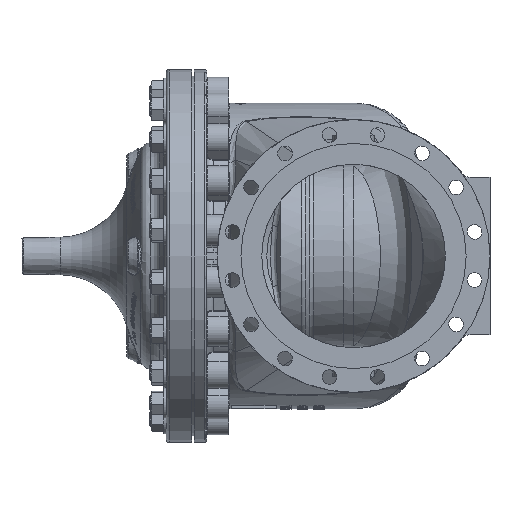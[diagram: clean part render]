
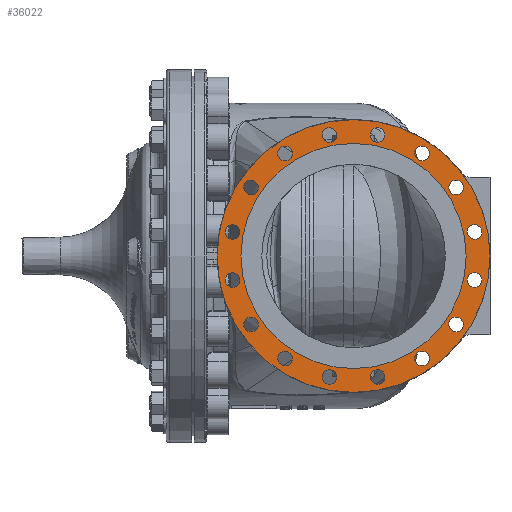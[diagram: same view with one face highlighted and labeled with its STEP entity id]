
A CAD part, left-side view. The second image highlights one B-rep face of the part: STEP entity #36022.
In plain terms, the highlighted planar face has unit normal (-1, 0, 0).
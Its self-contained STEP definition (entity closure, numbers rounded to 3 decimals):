
#6027=FACE_BOUND('',#10042,.T.);
#6028=FACE_BOUND('',#10043,.T.);
#6029=FACE_BOUND('',#10044,.T.);
#6030=FACE_BOUND('',#10045,.T.);
#6031=FACE_BOUND('',#10046,.T.);
#6032=FACE_BOUND('',#10047,.T.);
#6033=FACE_BOUND('',#10048,.T.);
#6034=FACE_BOUND('',#10049,.T.);
#6035=FACE_BOUND('',#10050,.T.);
#6036=FACE_BOUND('',#10051,.T.);
#6037=FACE_BOUND('',#10052,.T.);
#6038=FACE_BOUND('',#10053,.T.);
#6039=FACE_BOUND('',#10054,.T.);
#6040=FACE_BOUND('',#10055,.T.);
#6041=FACE_BOUND('',#10056,.T.);
#6042=FACE_BOUND('',#10057,.T.);
#6043=FACE_BOUND('',#10058,.T.);
#7684=FACE_OUTER_BOUND('',#10041,.T.);
#10041=EDGE_LOOP('',(#30223));
#10042=EDGE_LOOP('',(#30224));
#10043=EDGE_LOOP('',(#30225));
#10044=EDGE_LOOP('',(#30226));
#10045=EDGE_LOOP('',(#30227));
#10046=EDGE_LOOP('',(#30228));
#10047=EDGE_LOOP('',(#30229));
#10048=EDGE_LOOP('',(#30230));
#10049=EDGE_LOOP('',(#30231));
#10050=EDGE_LOOP('',(#30232));
#10051=EDGE_LOOP('',(#30233));
#10052=EDGE_LOOP('',(#30234));
#10053=EDGE_LOOP('',(#30235));
#10054=EDGE_LOOP('',(#30236));
#10055=EDGE_LOOP('',(#30237));
#10056=EDGE_LOOP('',(#30238));
#10057=EDGE_LOOP('',(#30239));
#10058=EDGE_LOOP('',(#30240));
#11754=CIRCLE('',#38476,14.);
#11756=CIRCLE('',#38479,14.);
#11758=CIRCLE('',#38482,14.);
#11760=CIRCLE('',#38485,14.);
#11762=CIRCLE('',#38488,14.);
#11764=CIRCLE('',#38491,14.);
#11766=CIRCLE('',#38494,14.);
#11768=CIRCLE('',#38497,14.);
#11770=CIRCLE('',#38500,14.);
#11772=CIRCLE('',#38503,14.);
#11774=CIRCLE('',#38506,14.);
#11776=CIRCLE('',#38509,14.);
#11778=CIRCLE('',#38512,14.);
#11780=CIRCLE('',#38515,14.);
#11782=CIRCLE('',#38518,14.);
#11784=CIRCLE('',#38521,14.);
#12433=CIRCLE('',#39767,260.);
#12435=CIRCLE('',#39776,214.5);
#14650=VERTEX_POINT('',#58645);
#14652=VERTEX_POINT('',#58651);
#14654=VERTEX_POINT('',#58657);
#14656=VERTEX_POINT('',#58663);
#14658=VERTEX_POINT('',#58669);
#14660=VERTEX_POINT('',#58675);
#14662=VERTEX_POINT('',#58681);
#14664=VERTEX_POINT('',#58687);
#14666=VERTEX_POINT('',#58693);
#14668=VERTEX_POINT('',#58699);
#14670=VERTEX_POINT('',#58705);
#14672=VERTEX_POINT('',#58711);
#14674=VERTEX_POINT('',#58717);
#14676=VERTEX_POINT('',#58723);
#14678=VERTEX_POINT('',#58729);
#14680=VERTEX_POINT('',#58735);
#15836=VERTEX_POINT('',#74208);
#15838=VERTEX_POINT('',#74222);
#18924=EDGE_CURVE('',#14650,#14650,#11754,.T.);
#18927=EDGE_CURVE('',#14652,#14652,#11756,.T.);
#18930=EDGE_CURVE('',#14654,#14654,#11758,.T.);
#18933=EDGE_CURVE('',#14656,#14656,#11760,.T.);
#18936=EDGE_CURVE('',#14658,#14658,#11762,.T.);
#18939=EDGE_CURVE('',#14660,#14660,#11764,.T.);
#18942=EDGE_CURVE('',#14662,#14662,#11766,.T.);
#18945=EDGE_CURVE('',#14664,#14664,#11768,.T.);
#18948=EDGE_CURVE('',#14666,#14666,#11770,.T.);
#18951=EDGE_CURVE('',#14668,#14668,#11772,.T.);
#18954=EDGE_CURVE('',#14670,#14670,#11774,.T.);
#18957=EDGE_CURVE('',#14672,#14672,#11776,.T.);
#18960=EDGE_CURVE('',#14674,#14674,#11778,.T.);
#18963=EDGE_CURVE('',#14676,#14676,#11780,.T.);
#18966=EDGE_CURVE('',#14678,#14678,#11782,.T.);
#18969=EDGE_CURVE('',#14680,#14680,#11784,.T.);
#20839=EDGE_CURVE('',#15836,#15836,#12433,.T.);
#20843=EDGE_CURVE('',#15838,#15838,#12435,.T.);
#30223=ORIENTED_EDGE('',*,*,#20839,.F.);
#30224=ORIENTED_EDGE('',*,*,#18924,.T.);
#30225=ORIENTED_EDGE('',*,*,#18927,.T.);
#30226=ORIENTED_EDGE('',*,*,#18930,.T.);
#30227=ORIENTED_EDGE('',*,*,#18933,.T.);
#30228=ORIENTED_EDGE('',*,*,#18936,.T.);
#30229=ORIENTED_EDGE('',*,*,#18939,.T.);
#30230=ORIENTED_EDGE('',*,*,#18942,.T.);
#30231=ORIENTED_EDGE('',*,*,#18945,.T.);
#30232=ORIENTED_EDGE('',*,*,#18948,.T.);
#30233=ORIENTED_EDGE('',*,*,#18951,.T.);
#30234=ORIENTED_EDGE('',*,*,#18954,.T.);
#30235=ORIENTED_EDGE('',*,*,#18957,.T.);
#30236=ORIENTED_EDGE('',*,*,#18960,.T.);
#30237=ORIENTED_EDGE('',*,*,#18963,.T.);
#30238=ORIENTED_EDGE('',*,*,#18966,.T.);
#30239=ORIENTED_EDGE('',*,*,#18969,.T.);
#30240=ORIENTED_EDGE('',*,*,#20843,.F.);
#34169=PLANE('',#39778);
#36022=ADVANCED_FACE('',(#7684,#6027,#6028,#6029,#6030,#6031,#6032,#6033,
#6034,#6035,#6036,#6037,#6038,#6039,#6040,#6041,#6042,#6043),#34169,.F.);
#38476=AXIS2_PLACEMENT_3D('',#58646,#44834,#44835);
#38479=AXIS2_PLACEMENT_3D('',#58652,#44841,#44842);
#38482=AXIS2_PLACEMENT_3D('',#58658,#44848,#44849);
#38485=AXIS2_PLACEMENT_3D('',#58664,#44855,#44856);
#38488=AXIS2_PLACEMENT_3D('',#58670,#44862,#44863);
#38491=AXIS2_PLACEMENT_3D('',#58676,#44869,#44870);
#38494=AXIS2_PLACEMENT_3D('',#58682,#44876,#44877);
#38497=AXIS2_PLACEMENT_3D('',#58688,#44883,#44884);
#38500=AXIS2_PLACEMENT_3D('',#58694,#44890,#44891);
#38503=AXIS2_PLACEMENT_3D('',#58700,#44897,#44898);
#38506=AXIS2_PLACEMENT_3D('',#58706,#44904,#44905);
#38509=AXIS2_PLACEMENT_3D('',#58712,#44911,#44912);
#38512=AXIS2_PLACEMENT_3D('',#58718,#44918,#44919);
#38515=AXIS2_PLACEMENT_3D('',#58724,#44925,#44926);
#38518=AXIS2_PLACEMENT_3D('',#58730,#44932,#44933);
#38521=AXIS2_PLACEMENT_3D('',#58736,#44939,#44940);
#39767=AXIS2_PLACEMENT_3D('',#74210,#48079,#48080);
#39776=AXIS2_PLACEMENT_3D('',#74223,#48099,#48100);
#39778=AXIS2_PLACEMENT_3D('',#74227,#48104,#48105);
#44834=DIRECTION('center_axis',(1.,0.,0.));
#44835=DIRECTION('ref_axis',(0.,-0.383,-0.924));
#44841=DIRECTION('center_axis',(1.,0.,0.));
#44842=DIRECTION('ref_axis',(0.,-0.707,-0.707));
#44848=DIRECTION('center_axis',(1.,0.,0.));
#44849=DIRECTION('ref_axis',(0.,-0.924,-0.383));
#44855=DIRECTION('center_axis',(1.,0.,0.));
#44856=DIRECTION('ref_axis',(0.,-1.,0.));
#44862=DIRECTION('center_axis',(1.,0.,0.));
#44863=DIRECTION('ref_axis',(0.,-0.924,0.383));
#44869=DIRECTION('center_axis',(1.,0.,0.));
#44870=DIRECTION('ref_axis',(0.,-0.707,0.707));
#44876=DIRECTION('center_axis',(1.,0.,0.));
#44877=DIRECTION('ref_axis',(0.,-0.383,0.924));
#44883=DIRECTION('center_axis',(1.,0.,0.));
#44884=DIRECTION('ref_axis',(0.,0.,
1.));
#44890=DIRECTION('center_axis',(1.,0.,0.));
#44891=DIRECTION('ref_axis',(0.,0.383,0.924));
#44897=DIRECTION('center_axis',(1.,0.,0.));
#44898=DIRECTION('ref_axis',(0.,0.707,0.707));
#44904=DIRECTION('center_axis',(1.,0.,0.));
#44905=DIRECTION('ref_axis',(0.,0.924,0.383));
#44911=DIRECTION('center_axis',(1.,0.,0.));
#44912=DIRECTION('ref_axis',(0.,1.,0.));
#44918=DIRECTION('center_axis',(1.,0.,0.));
#44919=DIRECTION('ref_axis',(0.,0.924,-0.383));
#44925=DIRECTION('center_axis',(1.,0.,0.));
#44926=DIRECTION('ref_axis',(0.,0.707,-0.707));
#44932=DIRECTION('center_axis',(1.,0.,0.));
#44933=DIRECTION('ref_axis',(0.,0.383,-0.924));
#44939=DIRECTION('center_axis',(1.,0.,0.));
#44940=DIRECTION('ref_axis',(0.,0.,
-1.));
#48079=DIRECTION('center_axis',(1.,0.,0.));
#48080=DIRECTION('ref_axis',(0.,0.,
-1.));
#48099=DIRECTION('center_axis',(-1.,0.,0.));
#48100=DIRECTION('ref_axis',(0.,0.,
-1.));
#48104=DIRECTION('center_axis',(1.,0.,0.));
#48105=DIRECTION('ref_axis',(0.,0.,
-1.));
#58645=CARTESIAN_POINT('',(-486.,-672.299,-217.55));
#58646=CARTESIAN_POINT('Origin',(-486.,-677.656,-230.485));
#58651=CARTESIAN_POINT('',(-486.,-752.47,-185.496));
#58652=CARTESIAN_POINT('Origin',(-486.,-762.369,-195.395));
#58657=CARTESIAN_POINT('',(-486.,-814.271,-125.201));
#58658=CARTESIAN_POINT('Origin',(-486.,-827.205,-130.559));
#58663=CARTESIAN_POINT('',(-486.,-848.295,-45.846));
#58664=CARTESIAN_POINT('Origin',(-486.,-862.295,-45.846));
#58669=CARTESIAN_POINT('',(-486.,-849.36,40.489));
#58670=CARTESIAN_POINT('Origin',(-486.,-862.295,45.846));
#58675=CARTESIAN_POINT('',(-486.,-817.306,120.66));
#58676=CARTESIAN_POINT('Origin',(-486.,-827.205,130.559));
#58681=CARTESIAN_POINT('',(-486.,-757.011,182.461));
#58682=CARTESIAN_POINT('Origin',(-486.,-762.369,195.395));
#58687=CARTESIAN_POINT('',(-486.,-677.656,216.485));
#58688=CARTESIAN_POINT('Origin',(-486.,-677.656,230.485));
#58693=CARTESIAN_POINT('',(-486.,-591.321,217.55));
#58694=CARTESIAN_POINT('Origin',(-486.,-585.964,230.485));
#58699=CARTESIAN_POINT('',(-486.,-511.15,185.496));
#58700=CARTESIAN_POINT('Origin',(-486.,-501.251,195.395));
#58705=CARTESIAN_POINT('',(-486.,-449.349,125.201));
#58706=CARTESIAN_POINT('Origin',(-486.,-436.415,130.559));
#58711=CARTESIAN_POINT('',(-486.,-415.325,45.846));
#58712=CARTESIAN_POINT('Origin',(-486.,-401.325,45.846));
#58717=CARTESIAN_POINT('',(-486.,-414.26,-40.489));
#58718=CARTESIAN_POINT('Origin',(-486.,-401.325,-45.846));
#58723=CARTESIAN_POINT('',(-486.,-446.314,-120.66));
#58724=CARTESIAN_POINT('Origin',(-486.,-436.415,-130.559));
#58729=CARTESIAN_POINT('',(-486.,-506.609,-182.461));
#58730=CARTESIAN_POINT('Origin',(-486.,-501.251,-195.395));
#58735=CARTESIAN_POINT('',(-486.,-585.964,-216.485));
#58736=CARTESIAN_POINT('Origin',(-486.,-585.964,-230.485));
#74208=CARTESIAN_POINT('',(-486.,-631.81,260.));
#74210=CARTESIAN_POINT('Origin',(-486.,-631.81,0.));
#74222=CARTESIAN_POINT('',(-486.,-631.81,214.5));
#74223=CARTESIAN_POINT('Origin',(-486.,-631.81,0.));
#74227=CARTESIAN_POINT('Origin',(-486.,-631.81,0.));
